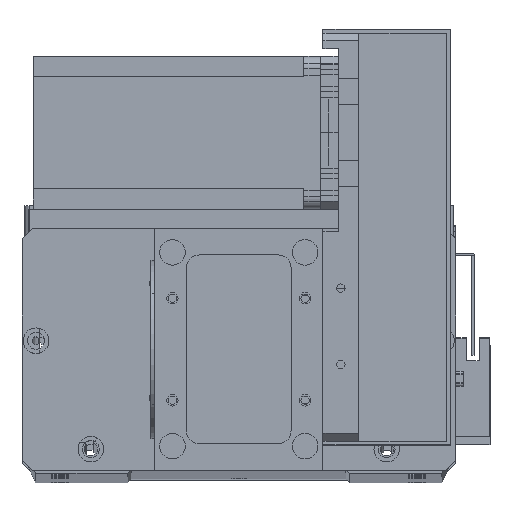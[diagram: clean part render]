
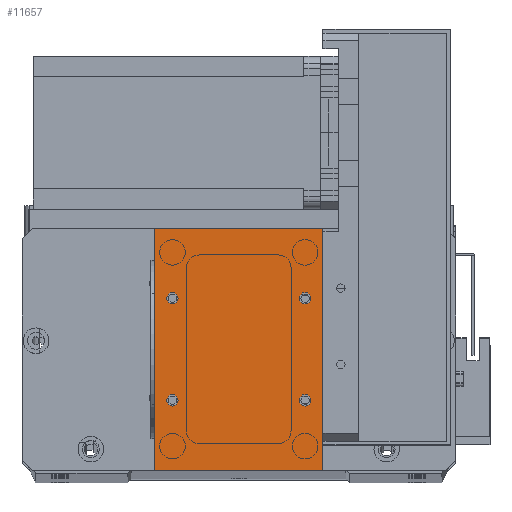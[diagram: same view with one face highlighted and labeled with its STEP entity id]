
A CAD part, top view. The second image highlights one B-rep face of the part: STEP entity #11657.
In plain terms, the highlighted planar face has unit normal (0, 0, 1).
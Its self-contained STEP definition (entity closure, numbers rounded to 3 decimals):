
#186 = DIRECTION ( 'NONE',  ( 1., 0., 0. ) ) ;
#432 = DIRECTION ( 'NONE',  ( 0., 1., 0. ) ) ;
#1066 = FACE_BOUND ( 'NONE', #31307, .T. ) ;
#1485 = VERTEX_POINT ( 'NONE', #8876 ) ;
#1878 = VERTEX_POINT ( 'NONE', #11895 ) ;
#1994 = VERTEX_POINT ( 'NONE', #30290 ) ;
#2014 = VERTEX_POINT ( 'NONE', #9859 ) ;
#2176 = DIRECTION ( 'NONE',  ( 1., 0., 0. ) ) ;
#2181 = CIRCLE ( 'NONE', #26599, 2.25 ) ;
#2290 = EDGE_LOOP ( 'NONE', ( #26195, #28097 ) ) ;
#2440 = CARTESIAN_POINT ( 'NONE',  ( 66., 0., 2. ) ) ;
#2916 = EDGE_CURVE ( 'NONE', #1485, #19195, #22168, .T. ) ;
#4139 = CARTESIAN_POINT ( 'NONE',  ( 0., 0., 2. ) ) ;
#4218 = ORIENTED_EDGE ( 'NONE', *, *, #2916, .T. ) ;
#4256 = ORIENTED_EDGE ( 'NONE', *, *, #7413, .F. ) ;
#4586 = LINE ( 'NONE', #15978, #16615 ) ;
#4929 = EDGE_CURVE ( 'NONE', #19195, #2014, #32517, .T. ) ;
#5474 = EDGE_LOOP ( 'NONE', ( #4256, #15901 ) ) ;
#5755 = ORIENTED_EDGE ( 'NONE', *, *, #4929, .T. ) ;
#5772 = AXIS2_PLACEMENT_3D ( 'NONE', #24974, #9578, #27576 ) ;
#6477 = AXIS2_PLACEMENT_3D ( 'NONE', #7436, #25414, #10025 ) ;
#6733 = CARTESIAN_POINT ( 'NONE',  ( 59., 27.5, 2. ) ) ;
#6933 = VECTOR ( 'NONE', #9205, 1000. ) ;
#6994 = VERTEX_POINT ( 'NONE', #12857 ) ;
#7413 = EDGE_CURVE ( 'NONE', #1878, #19213, #17861, .T. ) ;
#7436 = CARTESIAN_POINT ( 'NONE',  ( 59., 27.5, 2. ) ) ;
#7683 = CIRCLE ( 'NONE', #20605, 2.25 ) ;
#7991 = VERTEX_POINT ( 'NONE', #30992 ) ;
#8064 = CARTESIAN_POINT ( 'NONE',  ( 61.25, 67.5, 2. ) ) ;
#8096 = CARTESIAN_POINT ( 'NONE',  ( 4.75, 27.5, 2. ) ) ;
#8876 = CARTESIAN_POINT ( 'NONE',  ( 66., 0., 2. ) ) ;
#9205 = DIRECTION ( 'NONE',  ( 0., -1., 0. ) ) ;
#9325 = DIRECTION ( 'NONE',  ( 1., 0., 0. ) ) ;
#9479 = CIRCLE ( 'NONE', #10696, 2.25 ) ;
#9578 = DIRECTION ( 'NONE',  ( 0., 0., 1. ) ) ;
#9617 = VERTEX_POINT ( 'NONE', #8096 ) ;
#9859 = CARTESIAN_POINT ( 'NONE',  ( 0., 95., 2. ) ) ;
#9879 = CARTESIAN_POINT ( 'NONE',  ( 0., 95., 2. ) ) ;
#10025 = DIRECTION ( 'NONE',  ( 1., 0., 0. ) ) ;
#10066 = CARTESIAN_POINT ( 'NONE',  ( 7., 67.5, 2. ) ) ;
#10190 = DIRECTION ( 'NONE',  ( 0., 0., 1. ) ) ;
#10696 = AXIS2_PLACEMENT_3D ( 'NONE', #25595, #10190, #28194 ) ;
#10832 = DIRECTION ( 'NONE',  ( 1., 0., 0. ) ) ;
#11657 = ADVANCED_FACE ( 'NONE', ( #21514, #1066, #28394, #15508, #14708 ), #24563, .F. ) ;
#11895 = CARTESIAN_POINT ( 'NONE',  ( 9.25, 67.5, 2. ) ) ;
#12132 = CARTESIAN_POINT ( 'NONE',  ( 66., 95., 2. ) ) ;
#12283 = DIRECTION ( 'NONE',  ( 0., 0., 1. ) ) ;
#12641 = DIRECTION ( 'NONE',  ( 1., 0., 0. ) ) ;
#12857 = CARTESIAN_POINT ( 'NONE',  ( 61.25, 27.5, 2. ) ) ;
#12882 = EDGE_CURVE ( 'NONE', #6994, #26730, #2181, .T. ) ;
#13239 = VERTEX_POINT ( 'NONE', #8064 ) ;
#14191 = DIRECTION ( 'NONE',  ( 0., 0., -1. ) ) ;
#14312 = DIRECTION ( 'NONE',  ( -1., 0., 0. ) ) ;
#14708 = FACE_OUTER_BOUND ( 'NONE', #29458, .T. ) ;
#14721 = CARTESIAN_POINT ( 'NONE',  ( 4.75, 67.5, 2. ) ) ;
#15508 = FACE_BOUND ( 'NONE', #2290, .T. ) ;
#15552 = DIRECTION ( 'NONE',  ( 0., 0., 1. ) ) ;
#15901 = ORIENTED_EDGE ( 'NONE', *, *, #27302, .F. ) ;
#15978 = CARTESIAN_POINT ( 'NONE',  ( 0., 0., 2. ) ) ;
#16196 = EDGE_CURVE ( 'NONE', #2014, #1994, #18963, .T. ) ;
#16615 = VECTOR ( 'NONE', #10832, 1000. ) ;
#16938 = EDGE_CURVE ( 'NONE', #7991, #13239, #7683, .T. ) ;
#16982 = CIRCLE ( 'NONE', #5772, 2.25 ) ;
#17531 = DIRECTION ( 'NONE',  ( 0., 0., 1. ) ) ;
#17861 = CIRCLE ( 'NONE', #30276, 2.25 ) ;
#18963 = LINE ( 'NONE', #4139, #6933 ) ;
#19195 = VERTEX_POINT ( 'NONE', #12132 ) ;
#19213 = VERTEX_POINT ( 'NONE', #14721 ) ;
#19815 = ORIENTED_EDGE ( 'NONE', *, *, #12882, .F. ) ;
#19979 = CARTESIAN_POINT ( 'NONE',  ( 9.25, 27.5, 2. ) ) ;
#19998 = EDGE_CURVE ( 'NONE', #32322, #9617, #25577, .T. ) ;
#20605 = AXIS2_PLACEMENT_3D ( 'NONE', #27699, #12283, #30242 ) ;
#20629 = EDGE_LOOP ( 'NONE', ( #19815, #20998 ) ) ;
#20998 = ORIENTED_EDGE ( 'NONE', *, *, #27913, .F. ) ;
#21409 = EDGE_CURVE ( 'NONE', #1994, #1485, #4586, .T. ) ;
#21514 = FACE_BOUND ( 'NONE', #5474, .T. ) ;
#22168 = LINE ( 'NONE', #2440, #29053 ) ;
#23863 = AXIS2_PLACEMENT_3D ( 'NONE', #10066, #28051, #12641 ) ;
#24563 = PLANE ( 'NONE',  #29805 ) ;
#24634 = EDGE_CURVE ( 'NONE', #9617, #32322, #9479, .T. ) ;
#24714 = DIRECTION ( 'NONE',  ( 0., 0., 1. ) ) ;
#24974 = CARTESIAN_POINT ( 'NONE',  ( 59., 67.5, 2. ) ) ;
#25414 = DIRECTION ( 'NONE',  ( 0., 0., 1. ) ) ;
#25577 = CIRCLE ( 'NONE', #30833, 2.25 ) ;
#25595 = CARTESIAN_POINT ( 'NONE',  ( 7., 27.5, 2. ) ) ;
#25700 = VECTOR ( 'NONE', #27865, 1000. ) ;
#25816 = ORIENTED_EDGE ( 'NONE', *, *, #16196, .T. ) ;
#25985 = EDGE_CURVE ( 'NONE', #13239, #7991, #16982, .T. ) ;
#26195 = ORIENTED_EDGE ( 'NONE', *, *, #19998, .F. ) ;
#26599 = AXIS2_PLACEMENT_3D ( 'NONE', #6733, #24714, #9325 ) ;
#26680 = ORIENTED_EDGE ( 'NONE', *, *, #21409, .T. ) ;
#26730 = VERTEX_POINT ( 'NONE', #30996 ) ;
#27145 = CARTESIAN_POINT ( 'NONE',  ( 0., 0., 2. ) ) ;
#27302 = EDGE_CURVE ( 'NONE', #19213, #1878, #31396, .T. ) ;
#27355 = CIRCLE ( 'NONE', #6477, 2.25 ) ;
#27576 = DIRECTION ( 'NONE',  ( 1., 0., 0. ) ) ;
#27699 = CARTESIAN_POINT ( 'NONE',  ( 59., 67.5, 2. ) ) ;
#27865 = DIRECTION ( 'NONE',  ( -1., 0., 0. ) ) ;
#27913 = EDGE_CURVE ( 'NONE', #26730, #6994, #27355, .T. ) ;
#28011 = ORIENTED_EDGE ( 'NONE', *, *, #25985, .F. ) ;
#28051 = DIRECTION ( 'NONE',  ( 0., 0., 1. ) ) ;
#28097 = ORIENTED_EDGE ( 'NONE', *, *, #24634, .F. ) ;
#28194 = DIRECTION ( 'NONE',  ( 1., 0., 0. ) ) ;
#28394 = FACE_BOUND ( 'NONE', #20629, .T. ) ;
#29053 = VECTOR ( 'NONE', #432, 1000. ) ;
#29458 = EDGE_LOOP ( 'NONE', ( #25816, #26680, #4218, #5755 ) ) ;
#29805 = AXIS2_PLACEMENT_3D ( 'NONE', #27145, #14191, #14312 ) ;
#30158 = ORIENTED_EDGE ( 'NONE', *, *, #16938, .F. ) ;
#30242 = DIRECTION ( 'NONE',  ( 1., 0., 0. ) ) ;
#30276 = AXIS2_PLACEMENT_3D ( 'NONE', #32950, #17531, #2176 ) ;
#30290 = CARTESIAN_POINT ( 'NONE',  ( 0., 0., 2. ) ) ;
#30833 = AXIS2_PLACEMENT_3D ( 'NONE', #30960, #15552, #186 ) ;
#30960 = CARTESIAN_POINT ( 'NONE',  ( 7., 27.5, 2. ) ) ;
#30992 = CARTESIAN_POINT ( 'NONE',  ( 56.75, 67.5, 2. ) ) ;
#30996 = CARTESIAN_POINT ( 'NONE',  ( 56.75, 27.5, 2. ) ) ;
#31307 = EDGE_LOOP ( 'NONE', ( #28011, #30158 ) ) ;
#31396 = CIRCLE ( 'NONE', #23863, 2.25 ) ;
#32322 = VERTEX_POINT ( 'NONE', #19979 ) ;
#32517 = LINE ( 'NONE', #9879, #25700 ) ;
#32950 = CARTESIAN_POINT ( 'NONE',  ( 7., 67.5, 2. ) ) ;
